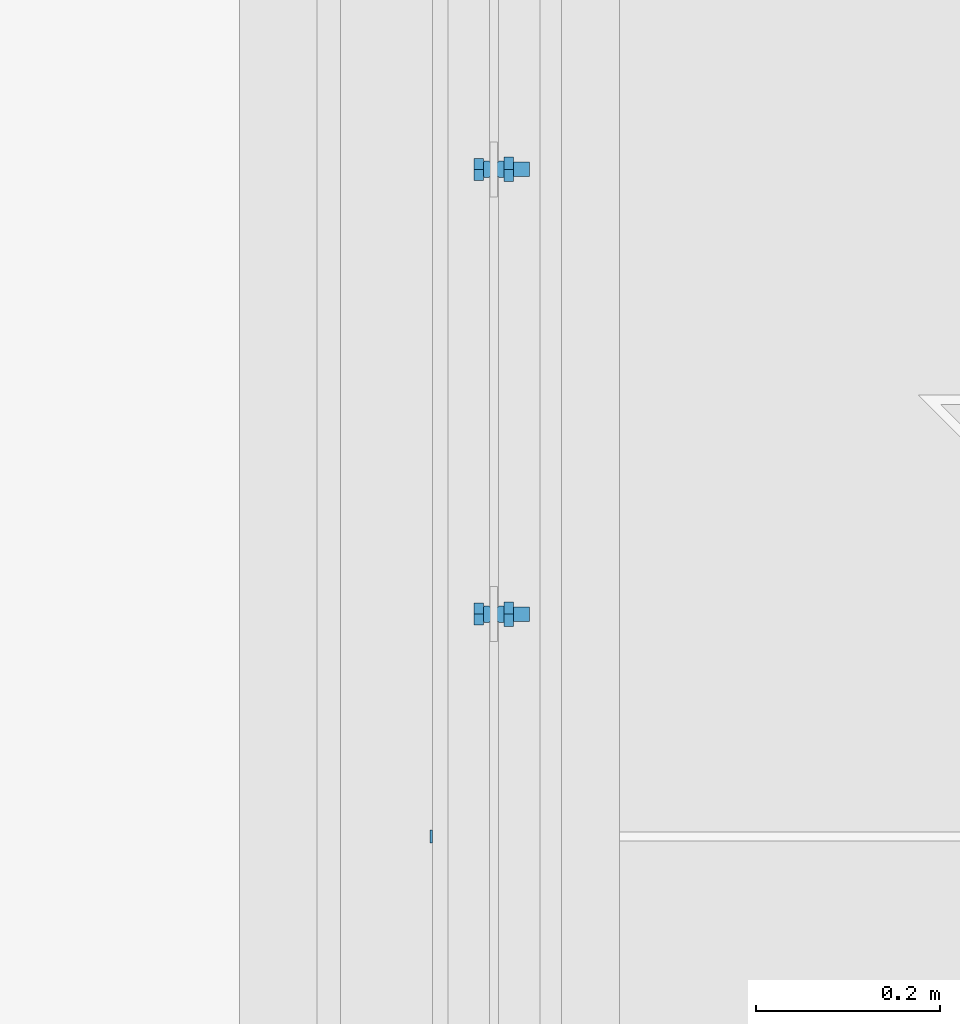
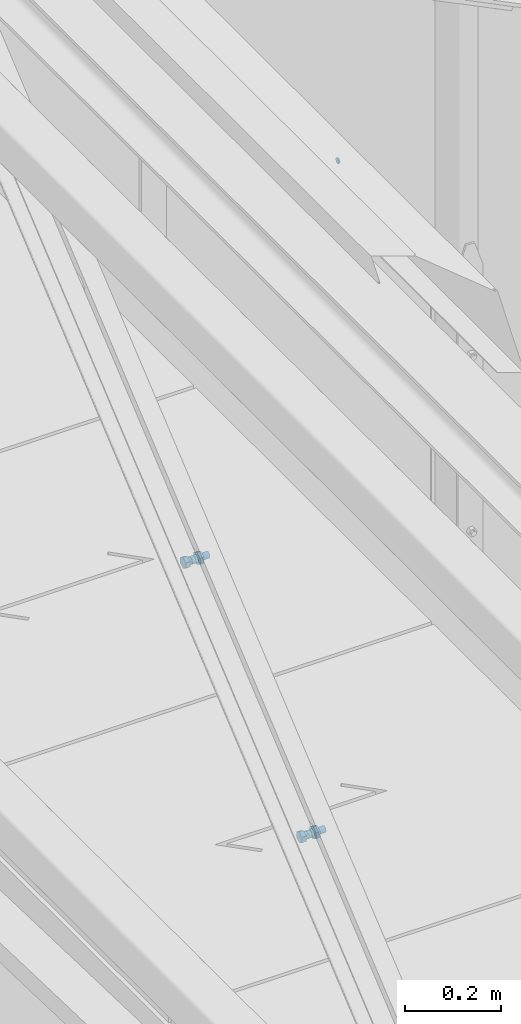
# One storey, part 325 of 362: 3 mechanical fasteners.
"""IFC2X3 building model written with IfcOpenShell, lengths in millimetres."""

from ifc_helpers import new_model, si_unit, frame, origin_with_axes, origin_2d_with_axis, place, context, subcontext, project, spatial, polyline, circle, outline, extrude, source, transform, mapped, material, type_object, element, save


model = new_model("IFC2X3")

# Units and contexts
model_context = context("Model", 3, precision=1e-05, world=origin_with_axes())
body_context = subcontext(model_context, "Body", "Model", "MODEL_VIEW")
ifc_project = project(units=[si_unit("LENGTHUNIT", "METRE", prefix="MILLI"), si_unit("AREAUNIT", "SQUARE_METRE"), si_unit("VOLUMEUNIT", "CUBIC_METRE"), si_unit("MASSUNIT", "GRAM", prefix="KILO"), si_unit("TIMEUNIT", "SECOND"), si_unit("PLANEANGLEUNIT", "RADIAN"), si_unit("SOLIDANGLEUNIT", "STERADIAN"), si_unit("THERMODYNAMICTEMPERATUREUNIT", "DEGREE_CELSIUS"), si_unit("LUMINOUSINTENSITYUNIT", "LUMEN")], contexts=[model_context])

# Site, building, storey
site_placement = place(None, origin_with_axes())
site = spatial("IfcSite", under=ifc_project, at=site_placement, Name="Undefined", CompositionType="ELEMENT")
building_placement = place(site_placement, origin_with_axes())
building = spatial("IfcBuilding", under=site, at=building_placement, Name="Undefined", CompositionType="ELEMENT")
storey_placement = place(building_placement, origin_with_axes())
storey = spatial("IfcBuildingStorey", under=building, at=storey_placement, Name="Undefined", CompositionType="ELEMENT", Elevation=0.0)

# Mechanical fasteners
ifc_material_1 = material(Name="6.8")
mechanical_fastener_type = type_object("IfcMechanicalFastenerType", Name="Bolt assembly")
shared_shape_1 = source(origin_with_axes(), body_context, "Body", "SweptSolid", [
    extrude(circle(Radius=7.0, at=origin_2d_with_axis()), frame((0.0, 0.0, 0.0), z_axis=(0.0, 1.0, 0.0), x_axis=(1.0, 0.0, 0.0)), (0.0, 0.0, 1.0), 3.1),
])
mechanical_fastener_placement = place(storey_placement, frame((34213.4999989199, 9500.00031982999, 10920.8421014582), z_axis=(0.0, -1.0, 0.0), x_axis=(0.0, 0.0, 1.0)))
element("IfcMechanicalFastener", 1, at=mechanical_fastener_placement, inside=storey, type_object=mechanical_fastener_type, material=ifc_material_1, Name="Bolt assembly", NominalDiameter=12.0, NominalLength=3.0, context=body_context, shape_type="MappedRepresentation", body=[
    mapped(shared_shape_1, transform((0.0, 0.0, 0.0))),
])
ifc_material_2 = material(Name="8.8-SB-ZINGUE")
shared_shape_2 = source(origin_with_axes(), body_context, "Body", "SweptSolid", [
    extrude(circle(Radius=9.0, at=origin_2d_with_axis()), frame((0.0, -10.9000000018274, 0.0), z_axis=(0.0, 1.0, 0.0), x_axis=(1.0, 0.0, 0.0)), (0.0, 0.0, 1.0), 6.0),
    extrude(circle(Radius=9.0, at=origin_2d_with_axis()), frame((0.0, 4.9000000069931, 0.0), z_axis=(0.0, 1.0, 0.0), x_axis=(1.0, 0.0, 0.0)), (0.0, 0.0, 1.0), 6.1),
    extrude(circle(Radius=9.0, at=origin_2d_with_axis()), frame((0.0, -3.99999923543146, 0.0), z_axis=(0.0, 1.0, 0.0), x_axis=(1.0, 0.0, 0.0)), (0.0, 0.0, 1.0), 8.0),
    extrude(outline(polyline([(13.85640646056, 0.0), (6.92820323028, 12.0000000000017), (-6.92820323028, 12.0000000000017), (-13.85640646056, 0.0), (-6.92820323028, -12.0000000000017), (6.92820323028, -12.0000000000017), (13.85640646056, 0.0)])), frame((0.0, -21.5600000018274, 0.0), z_axis=(0.0, 1.0, 0.0), x_axis=(1.0, 0.0, 0.0)), (0.0, 0.0, 1.0), 10.56),
    extrude(circle(Radius=8.0, at=origin_2d_with_axis()), frame((0.0, -11.0000000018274, 0.0), z_axis=(0.0, 1.0, 0.0), x_axis=(1.0, 0.0, 0.0)), (0.0, 0.0, 1.0), 50.0),
    extrude(outline(polyline([(15.3344231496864, 0.0), (7.6672115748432, 13.2800000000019), (-7.6672115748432, 13.2800000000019), (-15.3344231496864, 0.0), (-7.6672115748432, -13.2800000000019), (7.6672115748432, -13.2800000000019), (15.3344231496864, 0.0)])), frame((0.0, 11.0000000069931, 0.0), z_axis=(0.0, 1.0, 0.0), x_axis=(1.0, 0.0, 0.0)), (0.0, 0.0, 1.0), 10.56),
])
for number, where, z_axis, x_axis, name in (
    (2, (34280.0, 9741.82146207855, 9038.42092004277), (0.0, 1.0, 0.0), (0.0, 0.0, 1.0), "Bolt assembly"),
    (3, (34280.0, 10225.464385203, 9442.2627612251), (0.0, 1.0, 0.0), (0.0, 0.0, 1.0), "Bolt assembly"),
):
    element("IfcMechanicalFastener", number, at=place(storey_placement, frame(where, z_axis=z_axis, x_axis=x_axis)), inside=storey, type_object=mechanical_fastener_type, material=ifc_material_2, Name=name, NominalDiameter=16.0, NominalLength=50.0, context=body_context, shape_type="MappedRepresentation", body=[
        mapped(shared_shape_2, transform((0.0, 0.0, 0.0))),
    ])

save(model, "model.ifc")
